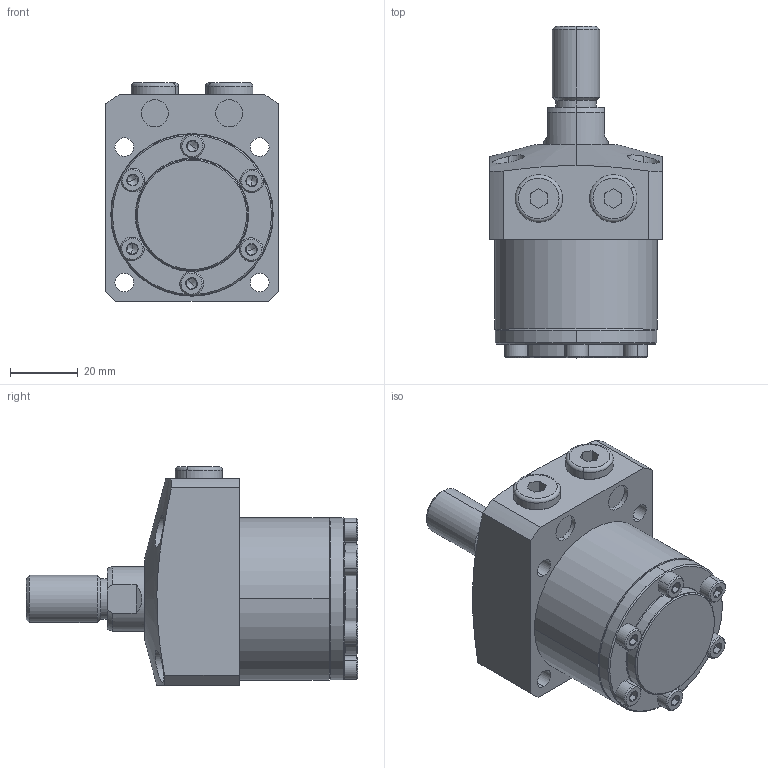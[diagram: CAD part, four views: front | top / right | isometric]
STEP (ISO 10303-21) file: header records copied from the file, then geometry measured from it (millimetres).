
FILE_DESCRIPTION (( 'STEP AP203' ), '1' );
FILE_NAME ('680480-CT-025.STEP', '2019-11-06T04:43:59', ( '微软用户' ), ( '微软中国' ), 'SwSTEP 2.0', 'SolidWorks 2014', '' );
FILE_SCHEMA (( 'CONFIG_CONTROL_DESIGN' ));
Length unit declared in the file: millimetre
Products named in the file (6): 葩璃 680480-CA-20-1^680480-CT-025; 葩璃 680480-CA-15-3^680480-CT-025; 葩璃 680480-CA-15-4^680480-CT-025; 葩璃 680480-CA-15-5^680480-CT-025; 葩璃 680480-20-12^680480-CT-025; 680480-CT-025
Assembly tree (11 placements, depth 2):
  680480-CT-025
    葩璃 680480-CA-20-1^680480-CT-025
    葩璃 680480-CA-15-3^680480-CT-025
    葩璃 680480-CA-15-4^680480-CT-025  x6
    葩璃 680480-CA-15-5^680480-CT-025  x2
    葩璃 680480-20-12^680480-CT-025
Bounding box: 51 x 98 x 64.5 mm (x, y, z)
Volume: 143991.2 mm3; surface area: 31258.9 mm2
Topology: 11 solids, 11 shells, 342 faces, 668 edges, 365 vertices
Faces by surface type: plane 139, cone 97, cylinder 90, torus 16
Entity records: 5549 total; most frequent: CARTESIAN_POINT 1137, DIRECTION 839, ORIENTED_EDGE 684, AXIS2_PLACEMENT_3D 350, EDGE_CURVE 342, VERTEX_POINT 208, EDGE_LOOP 198, CIRCLE 175
